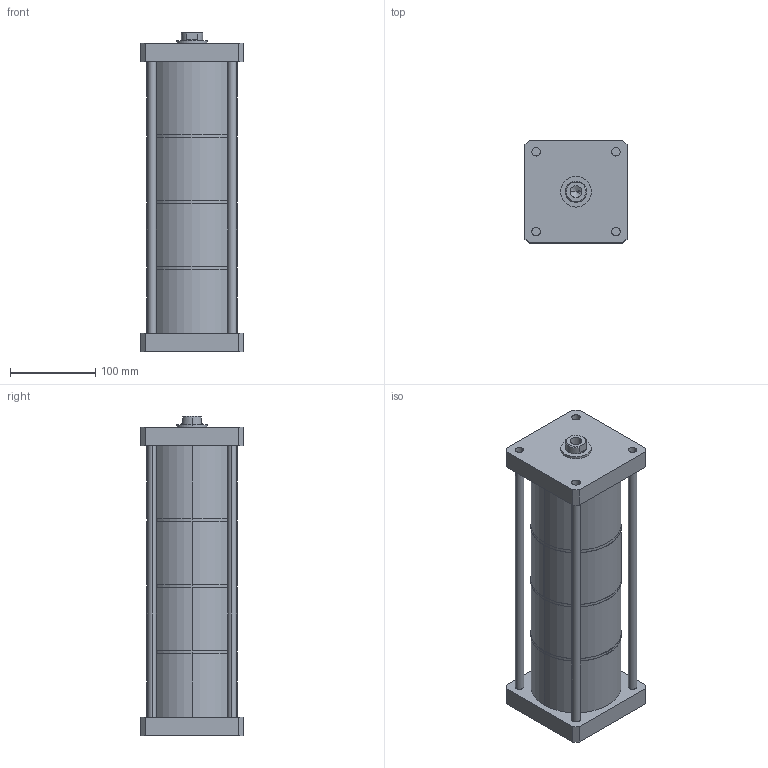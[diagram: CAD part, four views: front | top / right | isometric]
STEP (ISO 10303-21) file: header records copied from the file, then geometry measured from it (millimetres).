
FILE_DESCRIPTION (( 'STEP AP203' ), '1' );
FILE_NAME ('MHK-100-50-F-4.STEP', '2016-03-31T03:28:36', ( 'WIN' ), ( '' ), 'SwSTEP 2.0', 'SolidWorks 2014', '' );
FILE_SCHEMA (( 'CONFIG_CONTROL_DESIGN' ));
Length unit declared in the file: millimetre
Products named in the file (1): MHK-100-50-F-4
Bounding box: 120 x 120 x 376 mm (x, y, z)
Volume: 1769751.1 mm3; surface area: 438720.6 mm2
Topology: 13 solids, 13 shells, 176 faces, 389 edges, 254 vertices
Faces by surface type: plane 91, cylinder 72, cone 13
Entity records: 4945 total; most frequent: DIRECTION 898, CARTESIAN_POINT 826, ORIENTED_EDGE 766, EDGE_CURVE 383, AXIS2_PLACEMENT_3D 342, VERTEX_POINT 254, LINE 214, VECTOR 214
